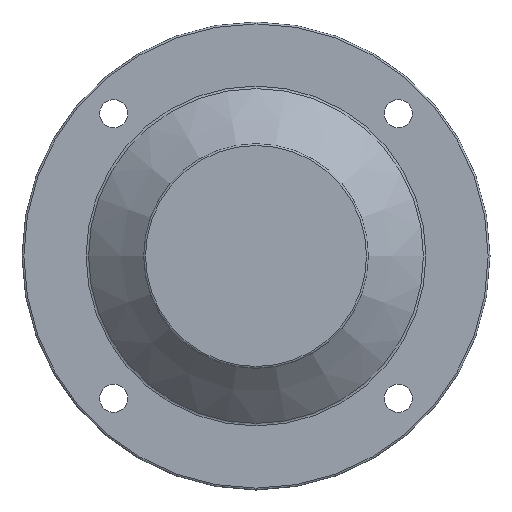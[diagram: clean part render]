
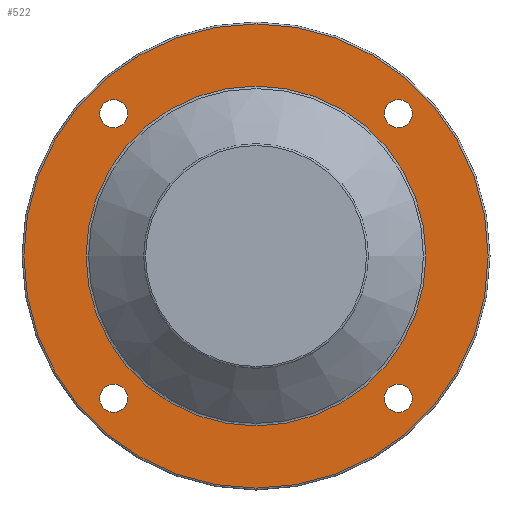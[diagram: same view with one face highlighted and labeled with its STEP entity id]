
A CAD part, left-side view. The second image highlights one B-rep face of the part: STEP entity #522.
In plain terms, the highlighted planar face has unit normal (-1, 0, 0).
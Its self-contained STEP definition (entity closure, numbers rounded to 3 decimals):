
#254=CARTESIAN_POINT('',(59.,83.514,-76.014));
#255=VERTEX_POINT('',#254);
#256=CARTESIAN_POINT('',(59.0,76.014,-76.014));
#257=DIRECTION('',(1.0,0.0,0.0));
#258=DIRECTION('',(0.0,1.0,0.0));
#259=AXIS2_PLACEMENT_3D('',#256,#257,#258);
#260=CIRCLE('',#259,7.5);
#261=EDGE_CURVE('',#255,#255,#260,.T.);
#303=CARTESIAN_POINT('',(59.,-68.514,-76.014));
#304=VERTEX_POINT('',#303);
#305=CARTESIAN_POINT('',(59.0,-76.014,-76.014));
#306=DIRECTION('',(1.0,0.0,0.0));
#307=DIRECTION('',(0.0,1.0,0.0));
#308=AXIS2_PLACEMENT_3D('',#305,#306,#307);
#309=CIRCLE('',#308,7.5);
#310=EDGE_CURVE('',#304,#304,#309,.T.);
#352=CARTESIAN_POINT('',(59.,-68.514,76.014));
#353=VERTEX_POINT('',#352);
#354=CARTESIAN_POINT('',(59.0,-76.014,76.014));
#355=DIRECTION('',(1.0,0.0,0.0));
#356=DIRECTION('',(0.0,1.0,0.0));
#357=AXIS2_PLACEMENT_3D('',#354,#355,#356);
#358=CIRCLE('',#357,7.5);
#359=EDGE_CURVE('',#353,#353,#358,.T.);
#401=CARTESIAN_POINT('',(59.,83.514,76.014));
#402=VERTEX_POINT('',#401);
#403=CARTESIAN_POINT('',(59.0,76.014,76.014));
#404=DIRECTION('',(1.0,0.0,0.0));
#405=DIRECTION('',(0.0,1.0,0.0));
#406=AXIS2_PLACEMENT_3D('',#403,#404,#405);
#407=CIRCLE('',#406,7.5);
#408=EDGE_CURVE('',#402,#402,#407,.T.);
#459=CARTESIAN_POINT('',(59.0,90.762,0.));
#460=VERTEX_POINT('',#459);
#461=CARTESIAN_POINT('',(59.0,0.0,0.0));
#462=DIRECTION('',(-1.0,0.0,0.0));
#463=DIRECTION('',(0.0,-1.0,0.0));
#464=AXIS2_PLACEMENT_3D('',#461,#462,#463);
#465=CIRCLE('',#464,90.762);
#466=EDGE_CURVE('',#460,#460,#465,.T.);
#491=CARTESIAN_POINT('',(59.0,107.5,0.));
#492=DIRECTION('',(-1.0,0.0,0.0));
#493=DIRECTION('',(0.0,0.0,1.0));
#494=AXIS2_PLACEMENT_3D('',#491,#492,#493);
#495=PLANE('',#494);
#496=CARTESIAN_POINT('',(59.0,124.0,0.0));
#497=VERTEX_POINT('',#496);
#498=CARTESIAN_POINT('',(59.0,0.0,0.0));
#499=DIRECTION('',(1.0,0.0,0.0));
#500=DIRECTION('',(0.0,-1.0,0.0));
#501=AXIS2_PLACEMENT_3D('',#498,#499,#500);
#502=CIRCLE('',#501,124.0);
#503=EDGE_CURVE('',#497,#497,#502,.T.);
#504=ORIENTED_EDGE('',*,*,#503,.F.);
#505=EDGE_LOOP('',(#504));
#506=FACE_OUTER_BOUND('',#505,.T.);
#507=ORIENTED_EDGE('',*,*,#261,.T.);
#508=EDGE_LOOP('',(#507));
#509=FACE_BOUND('',#508,.T.);
#510=ORIENTED_EDGE('',*,*,#310,.T.);
#511=EDGE_LOOP('',(#510));
#512=FACE_BOUND('',#511,.T.);
#513=ORIENTED_EDGE('',*,*,#359,.T.);
#514=EDGE_LOOP('',(#513));
#515=FACE_BOUND('',#514,.T.);
#516=ORIENTED_EDGE('',*,*,#408,.T.);
#517=EDGE_LOOP('',(#516));
#518=FACE_BOUND('',#517,.T.);
#519=ORIENTED_EDGE('',*,*,#466,.F.);
#520=EDGE_LOOP('',(#519));
#521=FACE_BOUND('',#520,.T.);
#522=ADVANCED_FACE('',(#506,#509,#512,#515,#518,#521),#495,.T.);
